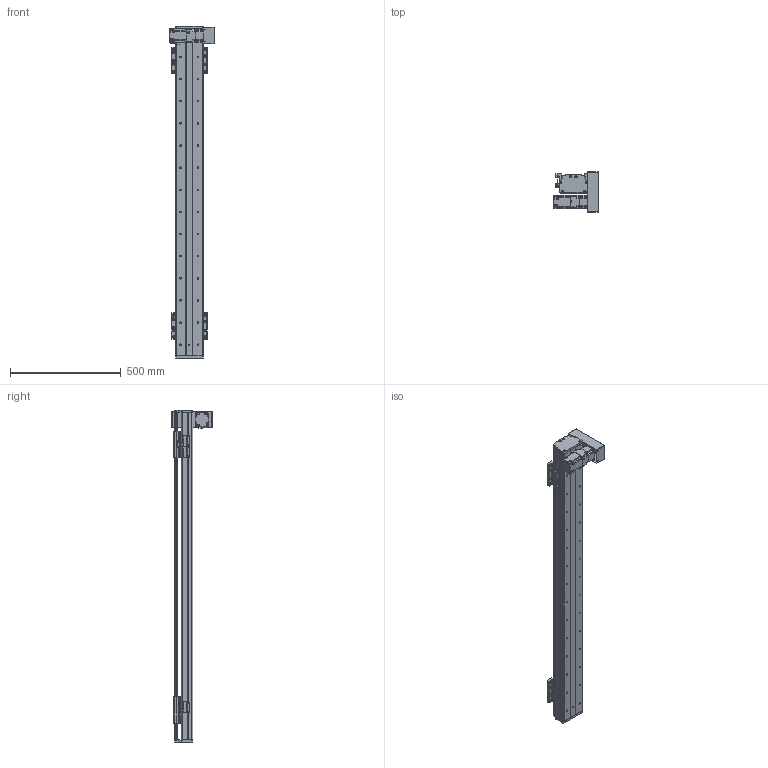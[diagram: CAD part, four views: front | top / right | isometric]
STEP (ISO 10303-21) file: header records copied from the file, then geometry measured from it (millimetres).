
FILE_DESCRIPTION(/* description */ (''),/* implementation_level */ '2;1');
FILE_NAME(/* name */ 'C:\Users\PC\Desktop\3D도면\STEP\새 폴더\DSB125-DR2G-W1200-L.stp',/* time_stamp */ '2018-06-21T14:59:20+09:00',/* author */ ('PC'),/* organization */ (''),/* preprocessor_version */ 'ST-DEVELOPER v16.5',/* originating_system */ 'Autodesk Inventor 2017',/* authorisation */ '');
FILE_SCHEMA (('AUTOMOTIVE_DESIGN { 1 0 10303 214 3 1 1 }'));
Length unit declared in the file: millimetre
Products named in the file (12): DSB125-DL2G-W1200-R_MIR; DSB125-BASE_MIR; DSB125-FRONT COVER_MIR; DSB125-REAR COVER_MIR; DSB125-UP COVER_MIR; hg-kr23__MIR; ab0601-p0401200402_MIR; 13-BELT COVER_MIR; DSR125-SENSOR DOG_MIR; pm-y65_step_MIR; SENSOR BRACKET(EE-SX674A)_MIR; DSB125-TABLE(MSB15S)_MIR
Assembly tree (16 placements, depth 2):
  DSB125-DL2G-W1200-R_MIR
    DSB125-BASE_MIR
    DSB125-FRONT COVER_MIR
    DSB125-REAR COVER_MIR
    DSB125-UP COVER_MIR
    hg-kr23__MIR
    ab0601-p0401200402_MIR
    13-BELT COVER_MIR
    DSR125-SENSOR DOG_MIR
    pm-y65_step_MIR  x3
    SENSOR BRACKET(EE-SX674A)_MIR  x3
    DSB125-TABLE(MSB15S)_MIR  x2
Bounding box: 202.1 x 182 x 1500 mm (x, y, z)
Volume: 5380499 mm3; surface area: 1548750.3 mm2
Topology: 17 solids, 17 shells, 1671 faces, 4530 edges, 2984 vertices
Faces by surface type: plane 903, cylinder 636, cone 120, sphere 8, torus 4
Full cylindrical faces by diameter (mm): 2.459 x20, 3.242 x16, 3.5 x6, 4 x1, 4.134 x16, 4.2 x4, 4.3 x1, 4.5 x50, 4.917 x20, 5 x22, 5.3 x1, 5.5 x4, 5.6 x8, 5.8 x4, 5.9 x8, 6 x4, 6.6 x22, 6.647 x30, 7.5 x32, 8.5 x8, 8.7 x1, 11 x22, 14 x1, 16 x2, 17 x1, 20 x1, 47 x1, 50 x3
Entity records: 36221 total; most frequent: CARTESIAN_POINT 6519, DIRECTION 6154, ORIENTED_EDGE 5498, EDGE_CURVE 2749, AXIS2_PLACEMENT_3D 2265, VERTEX_POINT 1958, EDGE_LOOP 1693, LINE 1624
